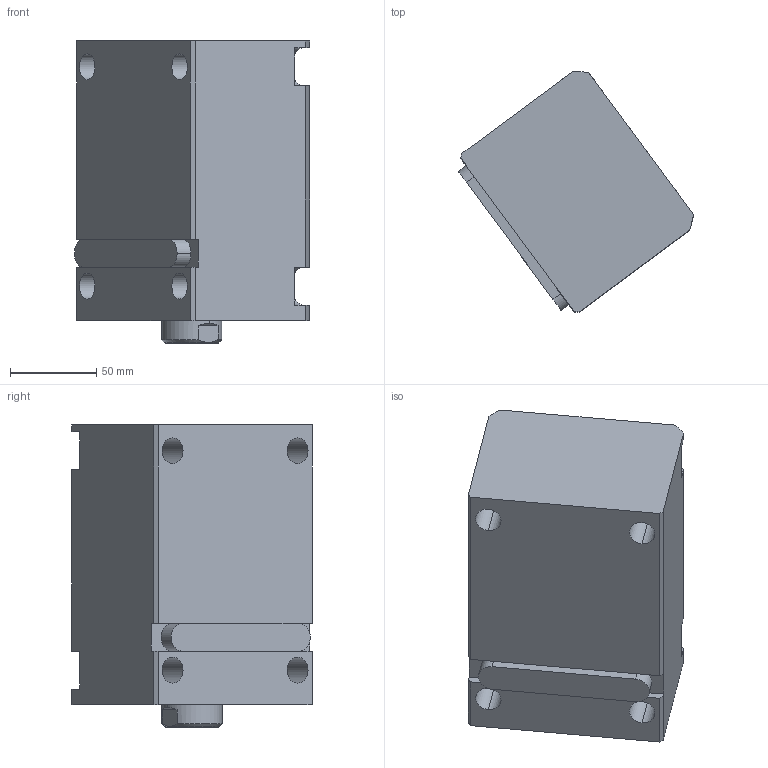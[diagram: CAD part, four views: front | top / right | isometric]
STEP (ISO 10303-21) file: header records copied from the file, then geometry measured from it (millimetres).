
FILE_DESCRIPTION (( 'STEP AP214' ), '1' );
FILE_NAME ('chtb-la63x95n_asm.STEP', '2018-05-02T04:03:54', ( 'Windows' ), ( 'Microsoft' ), 'SwSTEP 2.0', 'SolidWorks 2015', '' );
FILE_SCHEMA (( 'AUTOMOTIVE_DESIGN' ));
Length unit declared in the file: millimetre
Products named in the file (5): CHTB-LA63X95NBT; CHTB-LA63PJ; CHTB63X95NHSG; CHTB-63QG; chtb-la63x95n_asm
Assembly tree (4 placements, depth 2):
  chtb-la63x95n_asm
    CHTB-63QG
    CHTB63X95NHSG
    CHTB-LA63PJ
    CHTB-LA63X95NBT
Bounding box: 136.15 x 138.99 x 175 mm (x, y, z)
Volume: 1359447.3 mm3; surface area: 183871 mm2
Topology: 4 solids, 4 shells, 174 faces, 510 edges, 348 vertices
Faces by surface type: cylinder 98, plane 45, bspline 12, cone 12, torus 7
Entity records: 18199 total; most frequent: CARTESIAN_POINT 13678, ORIENTED_EDGE 1008, DIRECTION 778, EDGE_CURVE 504, VERTEX_POINT 348, AXIS2_PLACEMENT_3D 295, EDGE_LOOP 198, VECTOR 188
